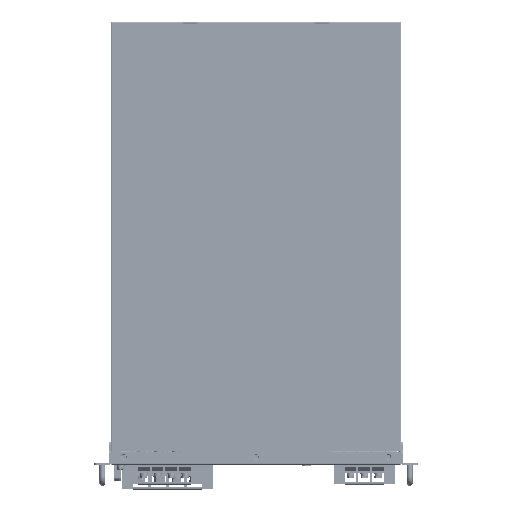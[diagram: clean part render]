
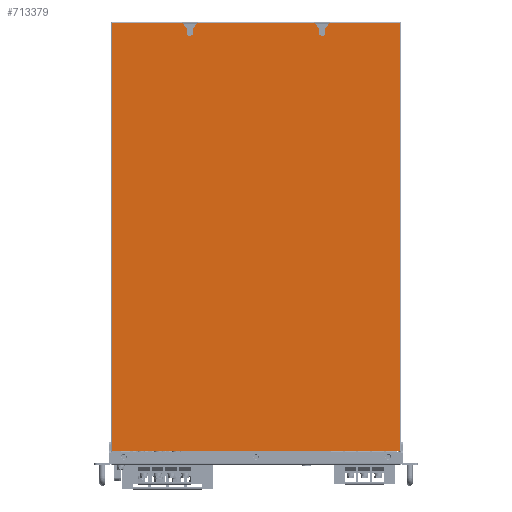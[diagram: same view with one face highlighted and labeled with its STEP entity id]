
A CAD part, top view. The second image highlights one B-rep face of the part: STEP entity #713379.
In plain terms, the highlighted planar face has unit normal (0, 0, 1).
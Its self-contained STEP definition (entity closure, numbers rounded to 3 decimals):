
#1237 = DIRECTION ( 'NONE',  ( 0., 1., 0. ) ) ;
#9696 = VECTOR ( 'NONE', #627510, 1000. ) ;
#11192 = DIRECTION ( 'NONE',  ( -0.65, 0.76, 0. ) ) ;
#13496 = CARTESIAN_POINT ( 'NONE',  ( -88.5, 323.3, 0. ) ) ;
#15659 = DIRECTION ( 'NONE',  ( 0., 1., 0. ) ) ;
#21450 = DIRECTION ( 'NONE',  ( 0.65, 0.76, 0. ) ) ;
#25098 = ORIENTED_EDGE ( 'NONE', *, *, #614716, .T. ) ;
#39958 = VECTOR ( 'NONE', #1237, 1000. ) ;
#42394 = CARTESIAN_POINT ( 'NONE',  ( -220., -325., 0. ) ) ;
#50351 = DIRECTION ( 'NONE',  ( 0., 0., 1. ) ) ;
#54411 = EDGE_CURVE ( 'NONE', #670186, #399117, #683512, .T. ) ;
#57479 = EDGE_CURVE ( 'NONE', #399117, #485540, #59031, .T. ) ;
#59031 = LINE ( 'NONE', #212846, #9696 ) ;
#60334 = CARTESIAN_POINT ( 'NONE',  ( -111.5, 323.3, 0. ) ) ;
#63221 = ORIENTED_EDGE ( 'NONE', *, *, #280354, .T. ) ;
#72410 = VERTEX_POINT ( 'NONE', #548480 ) ;
#75998 = CARTESIAN_POINT ( 'NONE',  ( -218.3, 323.3, 0. ) ) ;
#83210 = PLANE ( 'NONE',  #663025 ) ;
#84797 = CARTESIAN_POINT ( 'NONE',  ( -95., 309., 0. ) ) ;
#88095 = DIRECTION ( 'NONE',  ( -1., 0., 0. ) ) ;
#92131 = LINE ( 'NONE', #324029, #605052 ) ;
#94570 = LINE ( 'NONE', #472161, #146985 ) ;
#98488 = LINE ( 'NONE', #590026, #776786 ) ;
#99499 = VERTEX_POINT ( 'NONE', #452743 ) ;
#100267 = EDGE_CURVE ( 'NONE', #99499, #223417, #351171, .T. ) ;
#103835 = EDGE_CURVE ( 'NONE', #347172, #793999, #94570, .T. ) ;
#113644 = CARTESIAN_POINT ( 'NONE',  ( -105., 315.7, 0. ) ) ;
#120733 = DIRECTION ( 'NONE',  ( 0., -1., 0. ) ) ;
#130946 = LINE ( 'NONE', #614352, #658896 ) ;
#137666 = DIRECTION ( 'NONE',  ( 0.65, -0.76, 0. ) ) ;
#140248 = ORIENTED_EDGE ( 'NONE', *, *, #270114, .F. ) ;
#143478 = VERTEX_POINT ( 'NONE', #75998 ) ;
#143618 = DIRECTION ( 'NONE',  ( 0., 0., -1. ) ) ;
#146985 = VECTOR ( 'NONE', #411304, 1000. ) ;
#153652 = CARTESIAN_POINT ( 'NONE',  ( -111.5, 323.3, 0. ) ) ;
#175815 = EDGE_CURVE ( 'NONE', #143478, #99499, #98488, .T. ) ;
#179886 = DIRECTION ( 'NONE',  ( -1., 0., 0. ) ) ;
#180504 = EDGE_CURVE ( 'NONE', #417376, #210225, #698159, .T. ) ;
#182017 = LINE ( 'NONE', #612459, #551674 ) ;
#187532 = DIRECTION ( 'NONE',  ( 0., 0., 1. ) ) ;
#198553 = LINE ( 'NONE', #153652, #458779 ) ;
#200476 = ORIENTED_EDGE ( 'NONE', *, *, #651591, .T. ) ;
#208307 = LINE ( 'NONE', #13496, #668062 ) ;
#210225 = VERTEX_POINT ( 'NONE', #796963 ) ;
#210457 = CARTESIAN_POINT ( 'NONE',  ( 95., 315.7, 0. ) ) ;
#212846 = CARTESIAN_POINT ( 'NONE',  ( -95., 315.7, 0. ) ) ;
#215772 = EDGE_CURVE ( 'NONE', #215799, #670186, #700137, .T. ) ;
#215799 = VERTEX_POINT ( 'NONE', #113644 ) ;
#223417 = VERTEX_POINT ( 'NONE', #656496 ) ;
#236487 = DIRECTION ( 'NONE',  ( 1., 0., 0. ) ) ;
#265343 = ORIENTED_EDGE ( 'NONE', *, *, #100267, .T. ) ;
#270114 = EDGE_CURVE ( 'NONE', #485540, #622451, #208307, .T. ) ;
#280354 = EDGE_CURVE ( 'NONE', #793999, #381712, #734083, .T. ) ;
#282284 = CARTESIAN_POINT ( 'NONE',  ( -88.5, 323.3, 0. ) ) ;
#324029 = CARTESIAN_POINT ( 'NONE',  ( 218.3, 323.3, 0. ) ) ;
#334703 = CARTESIAN_POINT ( 'NONE',  ( -105., 309., 0. ) ) ;
#346190 = EDGE_CURVE ( 'NONE', #210225, #72410, #644609, .T. ) ;
#346358 = DIRECTION ( 'NONE',  ( 0., -1., 0. ) ) ;
#347172 = VERTEX_POINT ( 'NONE', #472298 ) ;
#351171 = LINE ( 'NONE', #42394, #463120 ) ;
#351619 = VERTEX_POINT ( 'NONE', #358266 ) ;
#358266 = CARTESIAN_POINT ( 'NONE',  ( 218.3, 323.3, 0. ) ) ;
#358948 = CARTESIAN_POINT ( 'NONE',  ( 95., 309., 0. ) ) ;
#372416 = ORIENTED_EDGE ( 'NONE', *, *, #613865, .T. ) ;
#381712 = VERTEX_POINT ( 'NONE', #735450 ) ;
#383374 = CARTESIAN_POINT ( 'NONE',  ( 100., 309., 0. ) ) ;
#384510 = CIRCLE ( 'NONE', #501009, 5. ) ;
#395800 = VECTOR ( 'NONE', #529168, 1000. ) ;
#399117 = VERTEX_POINT ( 'NONE', #84797 ) ;
#405732 = VECTOR ( 'NONE', #15659, 1000. ) ;
#411304 = DIRECTION ( 'NONE',  ( -0.65, -0.76, 0. ) ) ;
#417376 = VERTEX_POINT ( 'NONE', #358948 ) ;
#445104 = ORIENTED_EDGE ( 'NONE', *, *, #346190, .T. ) ;
#452743 = CARTESIAN_POINT ( 'NONE',  ( -218.3, -325., 0. ) ) ;
#458779 = VECTOR ( 'NONE', #137666, 1000. ) ;
#463120 = VECTOR ( 'NONE', #785570, 1000. ) ;
#472161 = CARTESIAN_POINT ( 'NONE',  ( 111.5, 323.3, 0. ) ) ;
#472298 = CARTESIAN_POINT ( 'NONE',  ( 111.5, 323.3, 0. ) ) ;
#474374 = CARTESIAN_POINT ( 'NONE',  ( 105., 315.7, 0. ) ) ;
#482268 = CARTESIAN_POINT ( 'NONE',  ( 105., 315.7, 0. ) ) ;
#485540 = VERTEX_POINT ( 'NONE', #535193 ) ;
#491224 = CARTESIAN_POINT ( 'NONE',  ( -105., 315.7, 0. ) ) ;
#501009 = AXIS2_PLACEMENT_3D ( 'NONE', #383374, #143618, #635078 ) ;
#529168 = DIRECTION ( 'NONE',  ( 0., -1., 0. ) ) ;
#530437 = ORIENTED_EDGE ( 'NONE', *, *, #721562, .T. ) ;
#532633 = VECTOR ( 'NONE', #11192, 1000. ) ;
#535193 = CARTESIAN_POINT ( 'NONE',  ( -95., 315.7, 0. ) ) ;
#541270 = ORIENTED_EDGE ( 'NONE', *, *, #597236, .F. ) ;
#546393 = ORIENTED_EDGE ( 'NONE', *, *, #215772, .F. ) ;
#548480 = CARTESIAN_POINT ( 'NONE',  ( 88.5, 323.3, 0. ) ) ;
#551674 = VECTOR ( 'NONE', #795349, 1000. ) ;
#553743 = LINE ( 'NONE', #557776, #39958 ) ;
#557776 = CARTESIAN_POINT ( 'NONE',  ( 218.3, -325., 0. ) ) ;
#562530 = ORIENTED_EDGE ( 'NONE', *, *, #175815, .T. ) ;
#578352 = ORIENTED_EDGE ( 'NONE', *, *, #57479, .F. ) ;
#583221 = ORIENTED_EDGE ( 'NONE', *, *, #180504, .T. ) ;
#590026 = CARTESIAN_POINT ( 'NONE',  ( -218.3, 325., 0. ) ) ;
#597236 = EDGE_CURVE ( 'NONE', #756365, #215799, #198553, .T. ) ;
#605052 = VECTOR ( 'NONE', #88095, 1000. ) ;
#612459 = CARTESIAN_POINT ( 'NONE',  ( 218.3, 323.3, 0. ) ) ;
#613865 = EDGE_CURVE ( 'NONE', #72410, #622451, #182017, .T. ) ;
#614352 = CARTESIAN_POINT ( 'NONE',  ( 218.3, 323.3, 0. ) ) ;
#614716 = EDGE_CURVE ( 'NONE', #351619, #347172, #92131, .T. ) ;
#622451 = VERTEX_POINT ( 'NONE', #282284 ) ;
#627510 = DIRECTION ( 'NONE',  ( 0., 1., 0. ) ) ;
#635078 = DIRECTION ( 'NONE',  ( -1., 0., 0. ) ) ;
#644609 = LINE ( 'NONE', #693723, #532633 ) ;
#651591 = EDGE_CURVE ( 'NONE', #756365, #143478, #130946, .T. ) ;
#655777 = ORIENTED_EDGE ( 'NONE', *, *, #658979, .T. ) ;
#655802 = FACE_OUTER_BOUND ( 'NONE', #787456, .T. ) ;
#656496 = CARTESIAN_POINT ( 'NONE',  ( 218.3, -325., 0. ) ) ;
#658896 = VECTOR ( 'NONE', #179886, 1000. ) ;
#658979 = EDGE_CURVE ( 'NONE', #381712, #417376, #384510, .T. ) ;
#663025 = AXIS2_PLACEMENT_3D ( 'NONE', #720694, #50351, #728753 ) ;
#668062 = VECTOR ( 'NONE', #21450, 1000. ) ;
#668346 = VECTOR ( 'NONE', #120733, 1000. ) ;
#670186 = VERTEX_POINT ( 'NONE', #334703 ) ;
#683512 = CIRCLE ( 'NONE', #787064, 5. ) ;
#693723 = CARTESIAN_POINT ( 'NONE',  ( 88.5, 323.3, 0. ) ) ;
#698159 = LINE ( 'NONE', #210457, #405732 ) ;
#700137 = LINE ( 'NONE', #491224, #395800 ) ;
#713379 = ADVANCED_FACE ( 'NONE', ( #655802 ), #83210, .T. ) ;
#720694 = CARTESIAN_POINT ( 'NONE',  ( 0., 0., 0. ) ) ;
#721562 = EDGE_CURVE ( 'NONE', #223417, #351619, #553743, .T. ) ;
#728753 = DIRECTION ( 'NONE',  ( 1., 0., 0. ) ) ;
#734083 = LINE ( 'NONE', #482268, #668346 ) ;
#735450 = CARTESIAN_POINT ( 'NONE',  ( 105., 309., 0. ) ) ;
#737624 = ORIENTED_EDGE ( 'NONE', *, *, #54411, .F. ) ;
#756365 = VERTEX_POINT ( 'NONE', #60334 ) ;
#776786 = VECTOR ( 'NONE', #346358, 1000. ) ;
#785570 = DIRECTION ( 'NONE',  ( 1., 0., 0. ) ) ;
#787064 = AXIS2_PLACEMENT_3D ( 'NONE', #796916, #187532, #236487 ) ;
#787456 = EDGE_LOOP ( 'NONE', ( #25098, #795878, #63221, #655777, #583221, #445104, #372416, #140248, #578352, #737624, #546393, #541270, #200476, #562530, #265343, #530437 ) ) ;
#793999 = VERTEX_POINT ( 'NONE', #474374 ) ;
#795349 = DIRECTION ( 'NONE',  ( -1., 0., 0. ) ) ;
#795878 = ORIENTED_EDGE ( 'NONE', *, *, #103835, .T. ) ;
#796916 = CARTESIAN_POINT ( 'NONE',  ( -100., 309., 0. ) ) ;
#796963 = CARTESIAN_POINT ( 'NONE',  ( 95., 315.7, 0. ) ) ;
